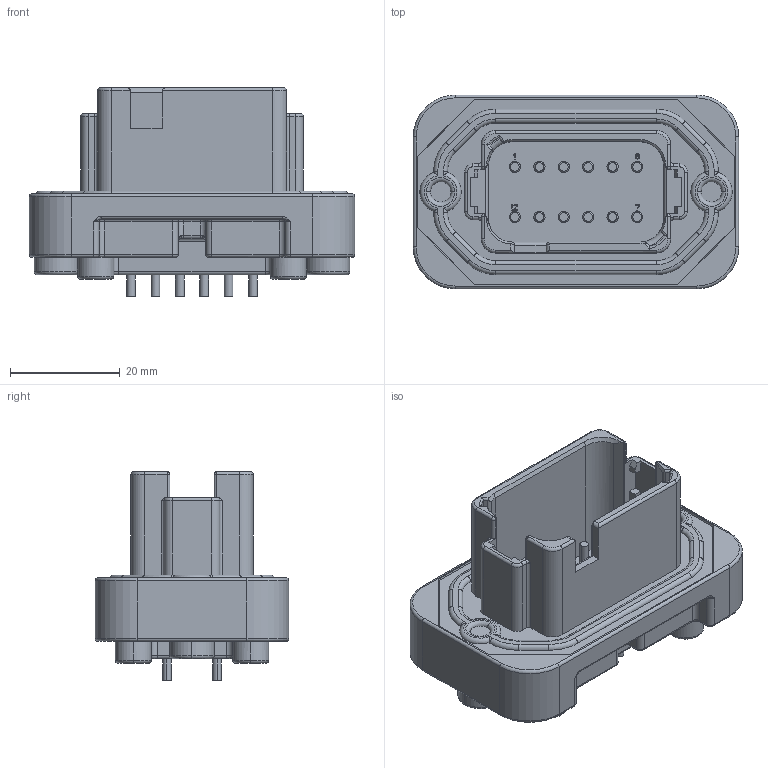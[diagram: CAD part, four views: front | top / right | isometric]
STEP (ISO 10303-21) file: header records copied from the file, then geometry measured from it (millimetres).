
FILE_DESCRIPTION((''),'2;1');
FILE_NAME('C-DT15-12PD-B016','2013-03-22T',('workeradm'),('Tyco Electronics Ltd.'),'PRO/ENGINEER BY PARAMETRIC TECHNOLOGY CORPORATION, 2010430','PRO/ENGINEER BY PARAMETRIC TECHNOLOGY CORPORATION, 2010430','');
FILE_SCHEMA(('AUTOMOTIVE_DESIGN { 1 0 10303 214 1 1 1 1 }'));
Length unit declared in the file: millimetre
Products named in the file (1): C-DT15-12PD-B016
Bounding box: 59.21 x 35.26 x 37.92 mm (x, y, z)
Volume: 24919.1 mm3; surface area: 12553.8 mm2
Topology: 1 solids, 1 shells, 679 faces, 1683 edges, 1051 vertices
Faces by surface type: plane 294, cylinder 225, torus 91, cone 54, bspline 11, sphere 4
Entity records: 21753 total; most frequent: CARTESIAN_POINT 5136, DIRECTION 3515, ORIENTED_EDGE 3366, EDGE_CURVE 1683, AXIS2_PLACEMENT_3D 1268, VERTEX_POINT 1051, VECTOR 979, LINE 979
